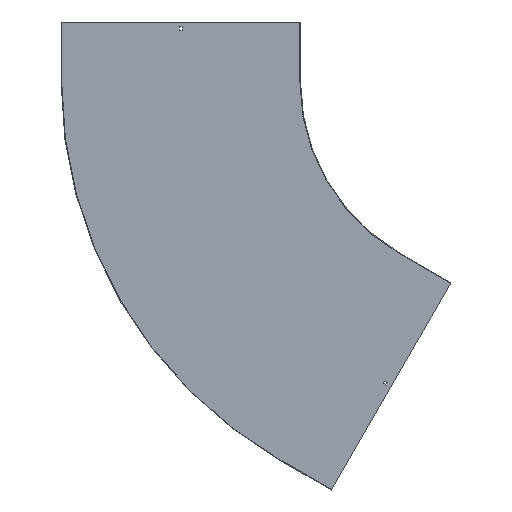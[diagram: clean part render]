
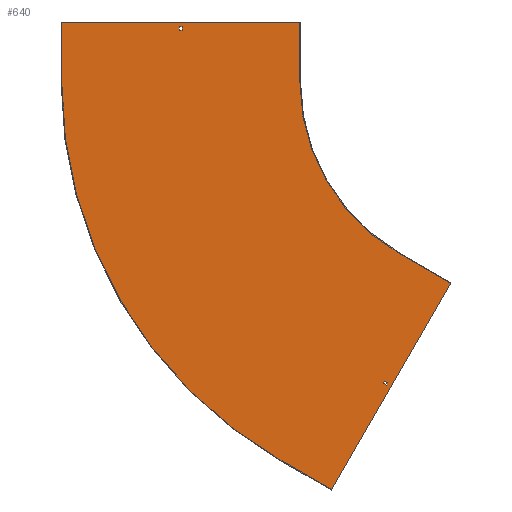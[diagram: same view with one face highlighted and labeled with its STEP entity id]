
A CAD part, front view. The second image highlights one B-rep face of the part: STEP entity #640.
In plain terms, the highlighted planar face has unit normal (0, -1, 0).
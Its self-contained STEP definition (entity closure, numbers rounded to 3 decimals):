
#3 = ORIENTED_EDGE ( 'NONE', *, *, #370, .F. ) ;
#6 = CARTESIAN_POINT ( 'NONE',  ( 119.512, -1.5, -69. ) ) ;
#7 = EDGE_LOOP ( 'NONE', ( #217, #424, #472, #537 ) ) ;
#8 = DIRECTION ( 'NONE',  ( -1., 0., 0. ) ) ;
#13 = EDGE_CURVE ( 'NONE', #195, #408, #624, .T. ) ;
#36 = EDGE_CURVE ( 'NONE', #638, #649, #91, .T. ) ;
#37 = LINE ( 'NONE', #853, #431 ) ;
#46 = CARTESIAN_POINT ( 'NONE',  ( -796.75, -1.5, 129. ) ) ;
#54 = CARTESIAN_POINT ( 'NONE',  ( -500., -1.5, 150. ) ) ;
#60 = VECTOR ( 'NONE', #603, 1000. ) ;
#62 = VECTOR ( 'NONE', #430, 1000. ) ;
#64 = VERTEX_POINT ( 'NONE', #384 ) ;
#70 = VERTEX_POINT ( 'NONE', #103 ) ;
#78 = ORIENTED_EDGE ( 'NONE', *, *, #817, .F. ) ;
#81 = VECTOR ( 'NONE', #8, 1000. ) ;
#91 = LINE ( 'NONE', #709, #418 ) ;
#103 = CARTESIAN_POINT ( 'NONE',  ( -500., -1.5, 0. ) ) ;
#107 = CARTESIAN_POINT ( 'NONE',  ( -1100., -1.5, 0. ) ) ;
#110 = DIRECTION ( 'NONE',  ( 0., -1., 0. ) ) ;
#122 = DIRECTION ( 'NONE',  ( 0., 0., 1. ) ) ;
#128 = DIRECTION ( 'NONE',  ( 0., 0., -1. ) ) ;
#132 = DIRECTION ( 'NONE',  ( 0., 0., -1. ) ) ;
#135 = LINE ( 'NONE', #535, #60 ) ;
#136 = VECTOR ( 'NONE', #132, 1000. ) ;
#137 = CIRCLE ( 'NONE', #363, 1100. ) ;
#139 = EDGE_CURVE ( 'NONE', #756, #478, #135, .T. ) ;
#143 = DIRECTION ( 'NONE',  ( 1., 0., 0. ) ) ;
#144 = VERTEX_POINT ( 'NONE', #528 ) ;
#149 = ORIENTED_EDGE ( 'NONE', *, *, #436, .F. ) ;
#153 = VECTOR ( 'NONE', #122, 1000. ) ;
#154 = ORIENTED_EDGE ( 'NONE', *, *, #13, .F. ) ;
#168 = ORIENTED_EDGE ( 'NONE', *, *, #514, .F. ) ;
#169 = FACE_BOUND ( 'NONE', #7, .T. ) ;
#173 = LINE ( 'NONE', #243, #733 ) ;
#178 = DIRECTION ( 'NONE',  ( -0.5, 0., -0.866 ) ) ;
#188 = EDGE_CURVE ( 'NONE', #504, #486, #801, .T. ) ;
#191 = VECTOR ( 'NONE', #560, 1000. ) ;
#195 = VERTEX_POINT ( 'NONE', #406 ) ;
#206 = ORIENTED_EDGE ( 'NONE', *, *, #36, .F. ) ;
#217 = ORIENTED_EDGE ( 'NONE', *, *, #139, .T. ) ;
#227 = CARTESIAN_POINT ( 'NONE',  ( 0., -1.5, 0. ) ) ;
#230 = CARTESIAN_POINT ( 'NONE',  ( -398.375, -1.5, -690.006 ) ) ;
#238 = DIRECTION ( 'NONE',  ( -0.5, 0., -0.866 ) ) ;
#243 = CARTESIAN_POINT ( 'NONE',  ( 111.717, -1.5, -64.5 ) ) ;
#254 = CARTESIAN_POINT ( 'NONE',  ( -250., -1.5, -433.013 ) ) ;
#290 = DIRECTION ( 'NONE',  ( 0., 0., -1. ) ) ;
#302 = CARTESIAN_POINT ( 'NONE',  ( -282.113, -1.5, -764.635 ) ) ;
#310 = PLANE ( 'NONE',  #768 ) ;
#314 = DIRECTION ( 'NONE',  ( 0., 0., -1. ) ) ;
#317 = CARTESIAN_POINT ( 'NONE',  ( 0., -1.5, 0. ) ) ;
#324 = CARTESIAN_POINT ( 'NONE',  ( 0., -1.5, 129. ) ) ;
#328 = CARTESIAN_POINT ( 'NONE',  ( -803.25, -1.5, 138. ) ) ;
#343 = CARTESIAN_POINT ( 'NONE',  ( -796.75, -1.5, 138. ) ) ;
#349 = ORIENTED_EDGE ( 'NONE', *, *, #546, .F. ) ;
#350 = ORIENTED_EDGE ( 'NONE', *, *, #636, .F. ) ;
#354 = CARTESIAN_POINT ( 'NONE',  ( -500., -1.5, 150. ) ) ;
#363 = AXIS2_PLACEMENT_3D ( 'NONE', #317, #364, #314 ) ;
#364 = DIRECTION ( 'NONE',  ( 0., 1., 0. ) ) ;
#370 = EDGE_CURVE ( 'NONE', #70, #721, #829, .T. ) ;
#371 = CARTESIAN_POINT ( 'NONE',  ( -420.096, -1.5, -1027.628 ) ) ;
#376 = AXIS2_PLACEMENT_3D ( 'NONE', #630, #110, #290 ) ;
#377 = LINE ( 'NONE', #718, #647 ) ;
#384 = CARTESIAN_POINT ( 'NONE',  ( -550., -1.5, -952.628 ) ) ;
#406 = CARTESIAN_POINT ( 'NONE',  ( -278.863, -1.5, -759.006 ) ) ;
#408 = VERTEX_POINT ( 'NONE', #518 ) ;
#417 = VERTEX_POINT ( 'NONE', #789 ) ;
#418 = VECTOR ( 'NONE', #641, 1000. ) ;
#421 = VECTOR ( 'NONE', #143, 1000. ) ;
#424 = ORIENTED_EDGE ( 'NONE', *, *, #675, .T. ) ;
#430 = DIRECTION ( 'NONE',  ( 0.866, 0., -0.5 ) ) ;
#431 = VECTOR ( 'NONE', #559, 1000. ) ;
#433 = VECTOR ( 'NONE', #533, 1000. ) ;
#436 = EDGE_CURVE ( 'NONE', #724, #70, #550, .T. ) ;
#439 = DIRECTION ( 'NONE',  ( 0., -1., 0. ) ) ;
#456 = CARTESIAN_POINT ( 'NONE',  ( -803.25, -1.5, 0. ) ) ;
#472 = ORIENTED_EDGE ( 'NONE', *, *, #188, .T. ) ;
#474 = CARTESIAN_POINT ( 'NONE',  ( -1101.5, -1.5, 150. ) ) ;
#478 = VERTEX_POINT ( 'NONE', #343 ) ;
#486 = VERTEX_POINT ( 'NONE', #572 ) ;
#489 = CARTESIAN_POINT ( 'NONE',  ( -250., -1.5, -433.013 ) ) ;
#504 = VERTEX_POINT ( 'NONE', #46 ) ;
#514 = EDGE_CURVE ( 'NONE', #144, #64, #769, .T. ) ;
#515 = LINE ( 'NONE', #784, #693 ) ;
#518 = CARTESIAN_POINT ( 'NONE',  ( -286.658, -1.5, -754.506 ) ) ;
#522 = ORIENTED_EDGE ( 'NONE', *, *, #524, .F. ) ;
#524 = EDGE_CURVE ( 'NONE', #800, #625, #37, .T. ) ;
#528 = CARTESIAN_POINT ( 'NONE',  ( -420.096, -1.5, -1027.628 ) ) ;
#533 = DIRECTION ( 'NONE',  ( 0.5, 0., 0.866 ) ) ;
#534 = EDGE_LOOP ( 'NONE', ( #154, #583, #522, #78 ) ) ;
#535 = CARTESIAN_POINT ( 'NONE',  ( 0., -1.5, 138. ) ) ;
#537 = ORIENTED_EDGE ( 'NONE', *, *, #739, .T. ) ;
#546 = EDGE_CURVE ( 'NONE', #721, #417, #643, .T. ) ;
#550 = LINE ( 'NONE', #354, #136 ) ;
#559 = DIRECTION ( 'NONE',  ( 0.866, 0., -0.5 ) ) ;
#560 = DIRECTION ( 'NONE',  ( -0.866, 0., 0.5 ) ) ;
#568 = CARTESIAN_POINT ( 'NONE',  ( -1100., -1.5, 150. ) ) ;
#572 = CARTESIAN_POINT ( 'NONE',  ( -803.25, -1.5, 129. ) ) ;
#583 = ORIENTED_EDGE ( 'NONE', *, *, #680, .F. ) ;
#601 = ORIENTED_EDGE ( 'NONE', *, *, #772, .F. ) ;
#603 = DIRECTION ( 'NONE',  ( 1., 0., 0. ) ) ;
#608 = EDGE_CURVE ( 'NONE', #64, #638, #137, .T. ) ;
#624 = LINE ( 'NONE', #230, #191 ) ;
#625 = VERTEX_POINT ( 'NONE', #302 ) ;
#628 = DIRECTION ( 'NONE',  ( -0.866, 0., 0.5 ) ) ;
#630 = CARTESIAN_POINT ( 'NONE',  ( 0., -1.5, 0. ) ) ;
#636 = EDGE_CURVE ( 'NONE', #417, #144, #377, .T. ) ;
#638 = VERTEX_POINT ( 'NONE', #107 ) ;
#639 = FACE_OUTER_BOUND ( 'NONE', #761, .T. ) ;
#640 = ADVANCED_FACE ( 'NONE', ( #856, #639, #169 ), #310, .T. ) ;
#641 = DIRECTION ( 'NONE',  ( 0., 0., 1. ) ) ;
#642 = CARTESIAN_POINT ( 'NONE',  ( -289.908, -1.5, -760.135 ) ) ;
#643 = LINE ( 'NONE', #489, #62 ) ;
#647 = VECTOR ( 'NONE', #178, 1000. ) ;
#649 = VERTEX_POINT ( 'NONE', #568 ) ;
#662 = LINE ( 'NONE', #456, #153 ) ;
#675 = EDGE_CURVE ( 'NONE', #478, #504, #515, .T. ) ;
#680 = EDGE_CURVE ( 'NONE', #625, #195, #799, .T. ) ;
#693 = VECTOR ( 'NONE', #128, 1000. ) ;
#709 = CARTESIAN_POINT ( 'NONE',  ( -1100., -1.5, 0. ) ) ;
#713 = DIRECTION ( 'NONE',  ( 0., 0., -1. ) ) ;
#718 = CARTESIAN_POINT ( 'NONE',  ( -119.346, -1.5, -506.714 ) ) ;
#721 = VERTEX_POINT ( 'NONE', #254 ) ;
#724 = VERTEX_POINT ( 'NONE', #54 ) ;
#733 = VECTOR ( 'NONE', #238, 1000. ) ;
#739 = EDGE_CURVE ( 'NONE', #486, #756, #662, .T. ) ;
#756 = VERTEX_POINT ( 'NONE', #328 ) ;
#761 = EDGE_LOOP ( 'NONE', ( #601, #206, #815, #168, #350, #349, #3, #149 ) ) ;
#767 = VECTOR ( 'NONE', #628, 1000. ) ;
#768 = AXIS2_PLACEMENT_3D ( 'NONE', #227, #439, #713 ) ;
#769 = LINE ( 'NONE', #371, #767 ) ;
#772 = EDGE_CURVE ( 'NONE', #649, #724, #825, .T. ) ;
#784 = CARTESIAN_POINT ( 'NONE',  ( -796.75, -1.5, 0. ) ) ;
#789 = CARTESIAN_POINT ( 'NONE',  ( -120.096, -1.5, -508.013 ) ) ;
#799 = LINE ( 'NONE', #6, #433 ) ;
#800 = VERTEX_POINT ( 'NONE', #642 ) ;
#801 = LINE ( 'NONE', #324, #81 ) ;
#815 = ORIENTED_EDGE ( 'NONE', *, *, #608, .F. ) ;
#817 = EDGE_CURVE ( 'NONE', #408, #800, #173, .T. ) ;
#825 = LINE ( 'NONE', #474, #421 ) ;
#829 = CIRCLE ( 'NONE', #376, 500. ) ;
#853 = CARTESIAN_POINT ( 'NONE',  ( -401.625, -1.5, -695.635 ) ) ;
#856 = FACE_BOUND ( 'NONE', #534, .T. ) ;
